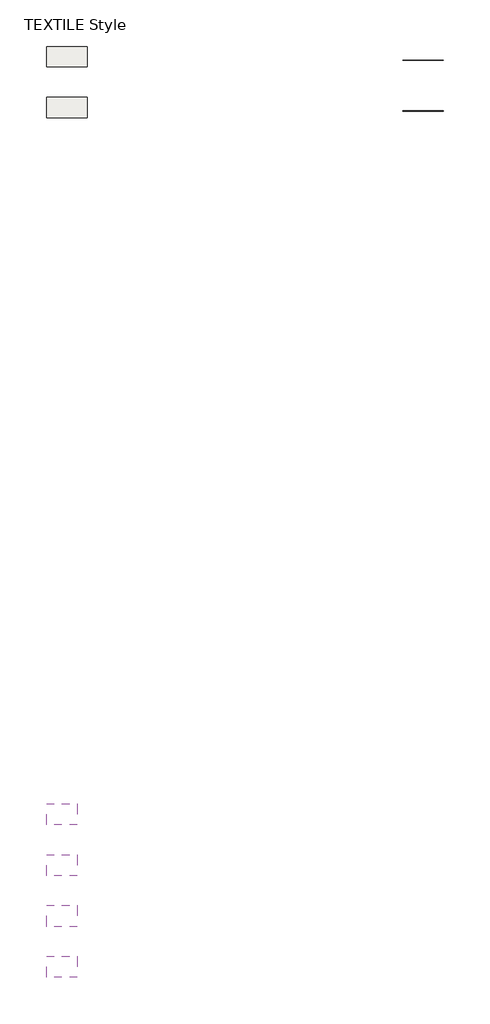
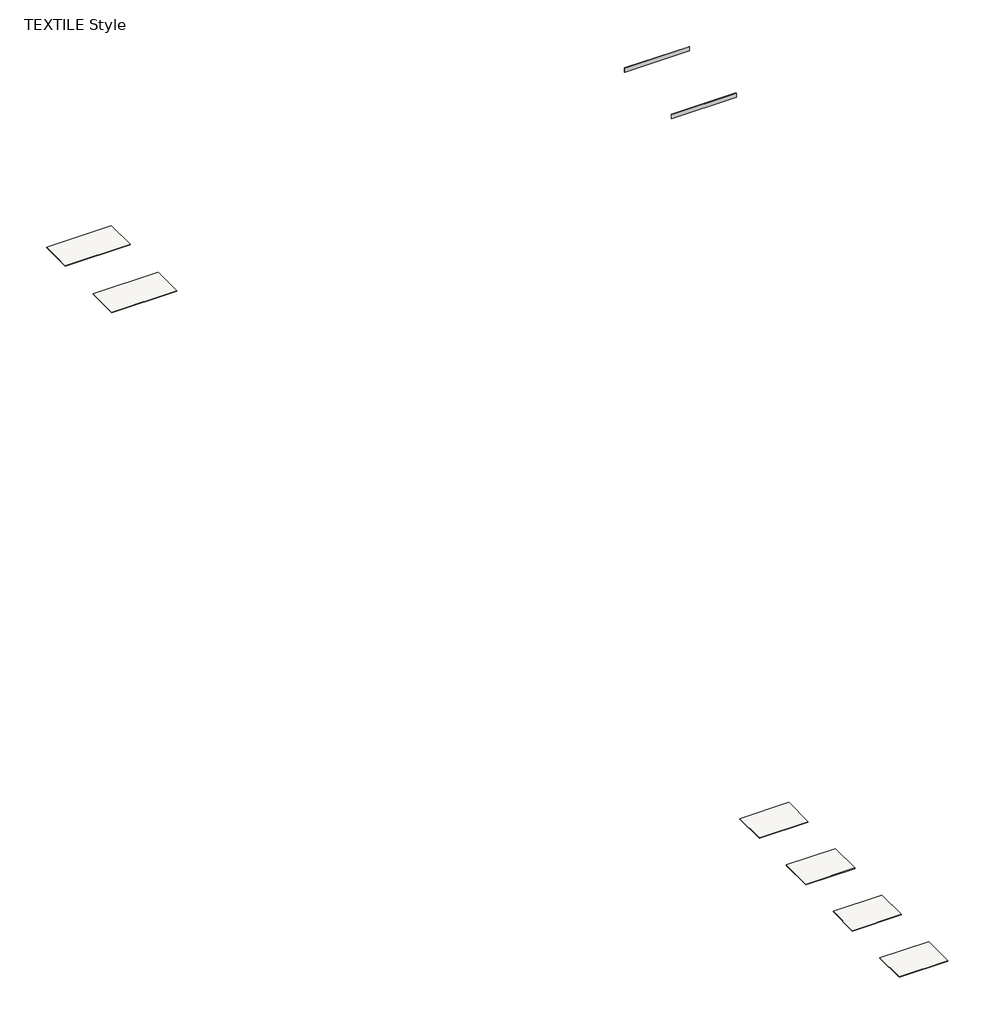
# One storey: 6 slabs, 2 proxies, 2 walls.
"""IFC4 building model written with IfcOpenShell, lengths in millimetres."""

from ifc_helpers import new_model, si_unit, frame, origin, place, context, project, spatial, polyline, outline, extrude, element, save

model = new_model("IFC4")

# Units and contexts
model_context = context("Model", 3, world=origin())
ifc_project = project(units=[si_unit("LENGTHUNIT", "METRE", prefix="MILLI")], contexts=[model_context])

# Site, building, storey
site = spatial("IfcSite", under=ifc_project)
building = spatial("IfcBuilding", under=site)
storey = spatial("IfcBuildingStorey", under=building, Name="TEXTILE Style", Elevation=21000.0)

# Proxies
placement = place(None, origin())
element("IfcBuildingElementProxy", 1, Name="Cesantoni_Bangladesh _8x120_RO_Arena_Mate", ObjectType="Cesantoni_Bangladesh _8x120_RO_Arena_Mate", at=placement, inside=storey, context=model_context, shape_type="SweptSolid", body=[
    extrude(outline(polyline([(9269.8218898, 374.781227), (9269.8218898, 385.781227), (10469.8218898, 385.781227), (10469.8218898, 374.781227), (9269.8218898, 374.781227)])), frame((0.0, 0.0, 21000.0), z_axis=(0.0, 0.0, 1.0), x_axis=(1.0, 0.0, 0.0)), (0.0, 0.0, 1.0), 80.0),
])
element("IfcBuildingElementProxy", 2, Name="Cesantoni_Bangladesh _8x120_RO_Camel_Mate", ObjectType="Cesantoni_Bangladesh _8x120_RO_Camel_Mate", at=placement, inside=storey, context=model_context, shape_type="SweptSolid", body=[
    extrude(outline(polyline([(9269.8218898, -1125.218773), (9269.8218898, -1114.218773), (10469.8218898, -1114.218773), (10469.8218898, -1125.218773), (9269.8218898, -1125.218773)])), frame((0.0, 0.0, 21000.0), z_axis=(0.0, 0.0, 1.0), x_axis=(1.0, 0.0, 0.0)), (0.0, 0.0, 1.0), 80.0),
])

# Slabs
element("IfcSlab", 3, ObjectType="Cesantoni_Bangladesh _60x120_RECT_Arena_Mate", at=placement, inside=storey, context=model_context, shape_type="SweptSolid", body=[
    extrude(outline(polyline([(-28.1781102, 784.4826442), (-28.1781102, 182.4826442), (-1230.1781102, 182.4826442), (-1230.1781102, 784.4826442), (-28.1781102, 784.4826442)])), frame((0.0, 0.0, 20989.0), z_axis=(0.0, 0.0, 1.0), x_axis=(1.0, 0.0, 0.0)), (0.0, 0.0, 1.0), 11.0),
])
element("IfcSlab", 4, ObjectType="Cesantoni_Bangladesh _60x120_RECT_Camel_Mate", at=placement, inside=storey, context=model_context, shape_type="SweptSolid", body=[
    extrude(outline(polyline([(-28.1781102, -715.5173558), (-28.1781102, -1317.5173558), (-1230.1781102, -1317.5173558), (-1230.1781102, -715.5173558), (-28.1781102, -715.5173558)])), frame((0.0, 0.0, 20989.0), z_axis=(0.0, 0.0, 1.0), x_axis=(1.0, 0.0, 0.0)), (0.0, 0.0, 1.0), 11.0),
])
element("IfcSlab", 5, ObjectType="Cesantoni_Cascata_30x6_Mist_Mate", at=placement, inside=storey, context=model_context, shape_type="SweptSolid", body=[
    extrude(outline(polyline([(-324.1781102, -21505.8828802), (-324.1781102, -22125.8828802), (-1230.1781102, -22125.8828802), (-1230.1781102, -21505.8828802), (-324.1781102, -21505.8828802)])), frame((0.0, 0.0, 23298.6407371), z_axis=(0.0, 0.0, 1.0), x_axis=(1.0, 0.0, 0.0)), (0.0, 0.0, 1.0), 11.0),
])
element("IfcSlab", 6, ObjectType="Cesantoni_Cascata_30x6_Snow_Mate", at=placement, inside=storey, context=model_context, shape_type="SweptSolid", body=[
    extrude(outline(polyline([(-324.1781102, -23005.8828802), (-324.1781102, -23625.8828802), (-1230.1781102, -23625.8828802), (-1230.1781102, -23005.8828802), (-324.1781102, -23005.8828802)])), frame((0.0, 0.0, 23298.6407371), z_axis=(0.0, 0.0, 1.0), x_axis=(1.0, 0.0, 0.0)), (0.0, 0.0, 1.0), 11.0),
])
element("IfcSlab", 7, ObjectType="Cesantoni_Cascata_30x6_Smoke_Mate", at=placement, inside=storey, context=model_context, shape_type="SweptSolid", body=[
    extrude(outline(polyline([(-324.1781102, -24505.8828802), (-324.1781102, -25125.8828802), (-1230.1781102, -25125.8828802), (-1230.1781102, -24505.8828802), (-324.1781102, -24505.8828802)])), frame((0.0, 0.0, 23298.6407371), z_axis=(0.0, 0.0, 1.0), x_axis=(1.0, 0.0, 0.0)), (0.0, 0.0, 1.0), 11.0),
])
element("IfcSlab", 8, ObjectType="Cesantoni_Cascata_30x6_Sand_Mate", at=placement, inside=storey, context=model_context, shape_type="SweptSolid", body=[
    extrude(outline(polyline([(-324.1781102, -26005.8828802), (-324.1781102, -26625.8828802), (-1230.1781102, -26625.8828802), (-1230.1781102, -26005.8828802), (-324.1781102, -26005.8828802)])), frame((0.0, 0.0, 23298.6407371), z_axis=(0.0, 0.0, 1.0), x_axis=(1.0, 0.0, 0.0)), (0.0, 0.0, 1.0), 11.0),
])

# Walls
element("IfcWall", 9, ObjectType="Muro básico:muro", at=placement, inside=storey, context=model_context, shape_type="SweptSolid", body=[
    extrude(outline(polyline([(10469.8218898, 385.781227), (9269.8218898, 385.781227), (9269.8218898, 386.781227), (10469.8218898, 386.781227), (10469.8218898, 385.781227)])), frame((0.0, 0.0, 21000.0), z_axis=(0.0, 0.0, 1.0), x_axis=(1.0, 0.0, 0.0)), (0.0, 0.0, 1.0), 40.0),
])
element("IfcWall", 10, ObjectType="Muro básico:muro", at=placement, inside=storey, context=model_context, shape_type="SweptSolid", body=[
    extrude(outline(polyline([(10469.8218898, -1114.218773), (9269.8218898, -1114.218773), (9269.8218898, -1113.218773), (10469.8218898, -1113.218773), (10469.8218898, -1114.218773)])), frame((0.0, 0.0, 21000.0), z_axis=(0.0, 0.0, 1.0), x_axis=(1.0, 0.0, 0.0)), (0.0, 0.0, 1.0), 40.0),
])

save(model, "model.ifc")
